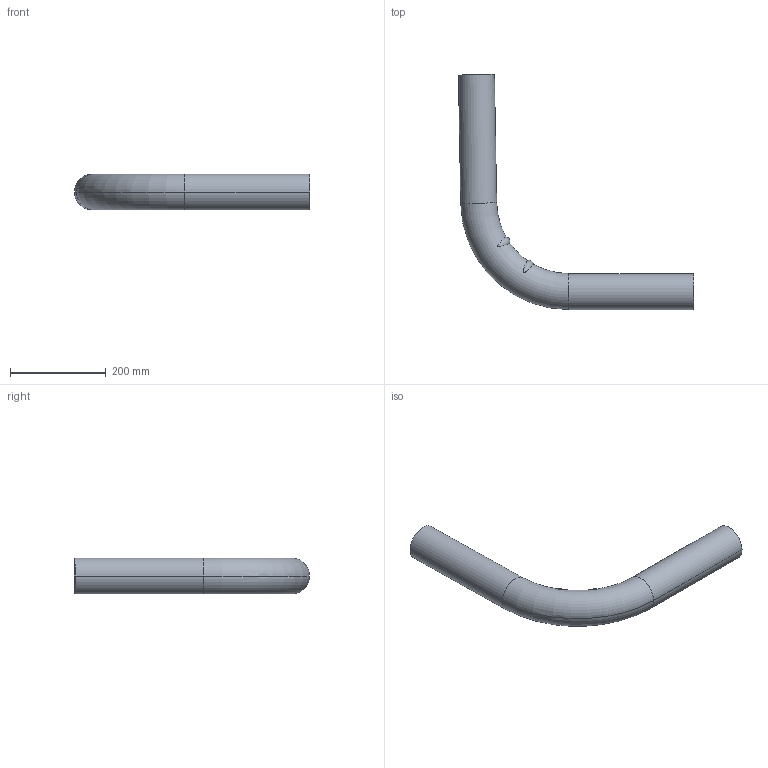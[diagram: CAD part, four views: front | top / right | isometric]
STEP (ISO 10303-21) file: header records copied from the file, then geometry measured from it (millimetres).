
FILE_DESCRIPTION (( 'STEP AP214' ), '1' );
FILE_NAME ('KP_3-75-63SCEC.step', '2022-09-09T05:15:54', ( '' ), ( '' ), 'SwSTEP 2.0', 'SolidWorks 2022', '' );
FILE_SCHEMA (( 'AUTOMOTIVE_DESIGN' ));
Length unit declared in the file: millimetre
Products named in the file (1): KP_3-75-63SCEC
Bounding box: 490 x 490 x 75 mm (x, y, z)
Volume: 1520009.7 mm3; surface area: 664276.5 mm2
Topology: 2 solids, 2 shells, 32 faces, 68 edges, 40 vertices
Faces by surface type: cylinder 16, torus 12, plane 4
Entity records: 1881 total; most frequent: CARTESIAN_POINT 783, DIRECTION 162, ORIENTED_EDGE 136, AXIS2_PLACEMENT_3D 73, EDGE_CURVE 68, VERTEX_POINT 40, CIRCLE 40, EDGE_LOOP 36
